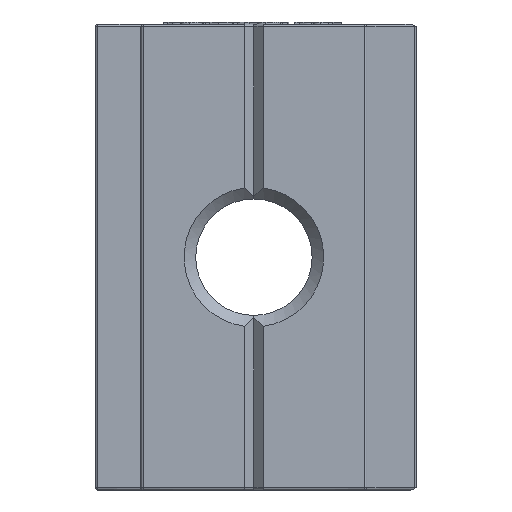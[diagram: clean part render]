
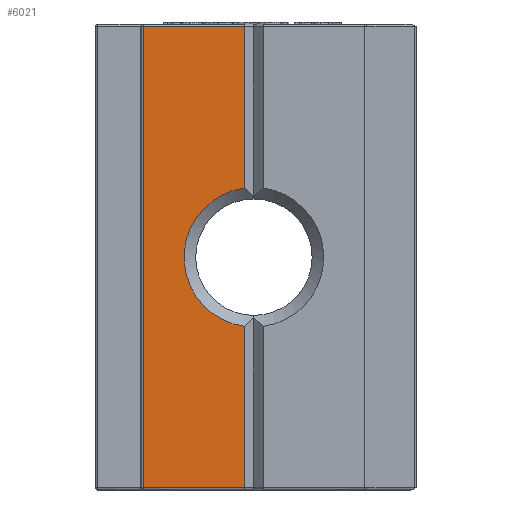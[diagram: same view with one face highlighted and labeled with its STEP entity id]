
A CAD part, front view. The second image highlights one B-rep face of the part: STEP entity #6021.
In plain terms, the highlighted planar face has unit normal (0, -1, 0).
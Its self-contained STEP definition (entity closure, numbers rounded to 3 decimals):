
#34 = EDGE_LOOP ( 'NONE', ( #7498, #7051, #8348, #6811, #3059, #2169 ) ) ;
#431 = DIRECTION ( 'NONE',  ( 0., 0., 1. ) ) ;
#514 = AXIS2_PLACEMENT_3D ( 'NONE', #3661, #4305, #431 ) ;
#545 = CARTESIAN_POINT ( 'NONE',  ( -0.4, 0., -2.973 ) ) ;
#769 = LINE ( 'NONE', #4013, #7264 ) ;
#805 = EDGE_CURVE ( 'NONE', #7820, #2542, #8147, .T. ) ;
#1036 = FACE_OUTER_BOUND ( 'NONE', #34, .T. ) ;
#1118 = CARTESIAN_POINT ( 'NONE',  ( -4.75, 0., 10. ) ) ;
#1283 = LINE ( 'NONE', #1118, #4549 ) ;
#1322 = VECTOR ( 'NONE', #7716, 1000. ) ;
#1782 = DIRECTION ( 'NONE',  ( 0., 0., -1. ) ) ;
#2085 = LINE ( 'NONE', #8182, #5521 ) ;
#2169 = ORIENTED_EDGE ( 'NONE', *, *, #7681, .T. ) ;
#2542 = VERTEX_POINT ( 'NONE', #545 ) ;
#3024 = PLANE ( 'NONE',  #514 ) ;
#3059 = ORIENTED_EDGE ( 'NONE', *, *, #4296, .T. ) ;
#3138 = VECTOR ( 'NONE', #6278, 1000. ) ;
#3388 = VERTEX_POINT ( 'NONE', #4249 ) ;
#3538 = DIRECTION ( 'NONE',  ( 0., -1., 0. ) ) ;
#3545 = AXIS2_PLACEMENT_3D ( 'NONE', #4728, #3538, #5568 ) ;
#3661 = CARTESIAN_POINT ( 'NONE',  ( -4.75, 0., 10. ) ) ;
#3836 = CARTESIAN_POINT ( 'NONE',  ( -4.75, 0., -9.9 ) ) ;
#3978 = VERTEX_POINT ( 'NONE', #7745 ) ;
#4013 = CARTESIAN_POINT ( 'NONE',  ( -0.4, 0., 10. ) ) ;
#4249 = CARTESIAN_POINT ( 'NONE',  ( -0.4, 0., 9.9 ) ) ;
#4296 = EDGE_CURVE ( 'NONE', #3978, #6659, #1283, .T. ) ;
#4305 = DIRECTION ( 'NONE',  ( 0., 1., 0. ) ) ;
#4307 = DIRECTION ( 'NONE',  ( 0., 0., -1. ) ) ;
#4549 = VECTOR ( 'NONE', #1782, 1000. ) ;
#4624 = LINE ( 'NONE', #5606, #3138 ) ;
#4655 = DIRECTION ( 'NONE',  ( 0., 0., -1. ) ) ;
#4728 = CARTESIAN_POINT ( 'NONE',  ( 0., 0., 0. ) ) ;
#5049 = EDGE_CURVE ( 'NONE', #3388, #7820, #769, .T. ) ;
#5521 = VECTOR ( 'NONE', #4307, 1000. ) ;
#5568 = DIRECTION ( 'NONE',  ( 0., 0., -1. ) ) ;
#5580 = CARTESIAN_POINT ( 'NONE',  ( -0.4, 0., -9.9 ) ) ;
#5606 = CARTESIAN_POINT ( 'NONE',  ( -4.75, 0., 9.9 ) ) ;
#6021 = ADVANCED_FACE ( 'NONE', ( #1036 ), #3024, .F. ) ;
#6278 = DIRECTION ( 'NONE',  ( -1., 0., 0. ) ) ;
#6545 = EDGE_CURVE ( 'NONE', #3388, #3978, #4624, .T. ) ;
#6585 = EDGE_CURVE ( 'NONE', #2542, #6936, #2085, .T. ) ;
#6659 = VERTEX_POINT ( 'NONE', #7091 ) ;
#6786 = CARTESIAN_POINT ( 'NONE',  ( -0.4, 0., 2.973 ) ) ;
#6811 = ORIENTED_EDGE ( 'NONE', *, *, #6545, .T. ) ;
#6936 = VERTEX_POINT ( 'NONE', #5580 ) ;
#7051 = ORIENTED_EDGE ( 'NONE', *, *, #805, .F. ) ;
#7091 = CARTESIAN_POINT ( 'NONE',  ( -4.75, 0., -9.9 ) ) ;
#7264 = VECTOR ( 'NONE', #4655, 1000. ) ;
#7498 = ORIENTED_EDGE ( 'NONE', *, *, #6585, .F. ) ;
#7681 = EDGE_CURVE ( 'NONE', #6659, #6936, #8236, .T. ) ;
#7716 = DIRECTION ( 'NONE',  ( 1., 0., 0. ) ) ;
#7745 = CARTESIAN_POINT ( 'NONE',  ( -4.75, 0., 9.9 ) ) ;
#7820 = VERTEX_POINT ( 'NONE', #6786 ) ;
#8147 = CIRCLE ( 'NONE', #3545, 3. ) ;
#8182 = CARTESIAN_POINT ( 'NONE',  ( -0.4, 0., 10. ) ) ;
#8236 = LINE ( 'NONE', #3836, #1322 ) ;
#8348 = ORIENTED_EDGE ( 'NONE', *, *, #5049, .F. ) ;
